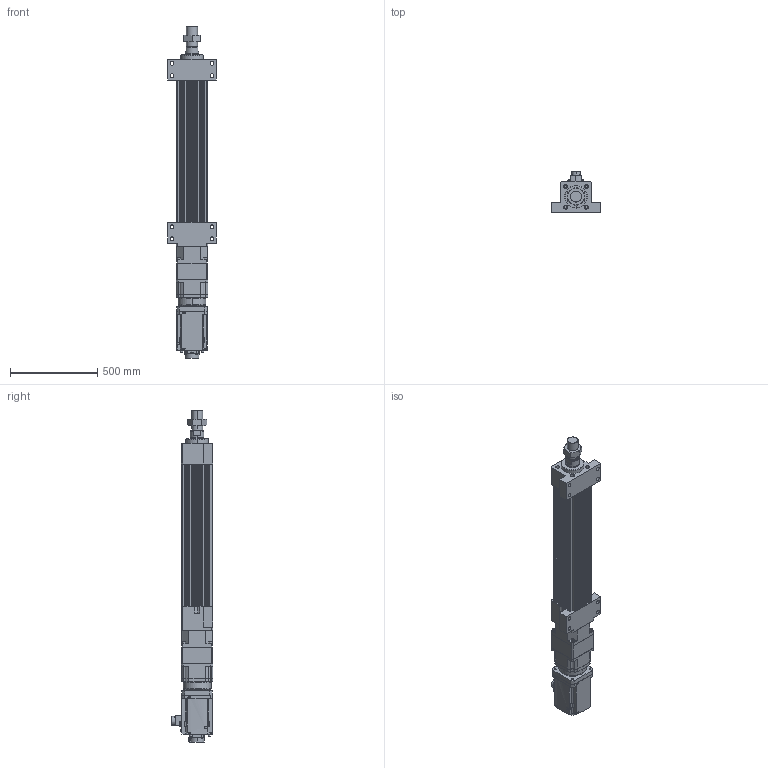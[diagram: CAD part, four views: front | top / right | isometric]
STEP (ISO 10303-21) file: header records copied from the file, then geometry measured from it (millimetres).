
FILE_DESCRIPTION (( 'STEP AP203' ), '1' );
FILE_NAME ('HES180HS-S500-W070G00-M-FFB.STEP', '2026-06-10T06:52:00', ( 'tms' ), ( '' ), 'SwSTEP 2.0', 'SolidWorks 2013', '' );
FILE_SCHEMA (( 'CONFIG_CONTROL_DESIGN' ));
Length unit declared in the file: millimetre
Products named in the file (9): HG-SR702B; M64X2.0P; HES180-M-ROD-500; HES180HS-S500-W070G00-M-FFB; HES180-S-G180; AB1803; AB1801; HES180-FFB-500; AB1802
Assembly tree (8 placements, depth 2):
  HES180HS-S500-W070G00-M-FFB
    HES180-FFB-500
    HES180-M-ROD-500
    M64X2.0P
    HES180-S-G180
    AB1801
    AB1802
    AB1803
    HG-SR702B
Bounding box: 280 x 239.1 x 1905.74 mm (x, y, z)
Volume: 30117061.6 mm3; surface area: 2723319.3 mm2
Topology: 5 solids, 20 shells, 1552 faces, 4023 edges, 2624 vertices
Faces by surface type: cylinder 704, plane 639, cone 142, bspline 63, torus 4
Entity records: 56368 total; most frequent: CARTESIAN_POINT 16636, DIRECTION 8361, ORIENTED_EDGE 7970, EDGE_CURVE 4009, AXIS2_PLACEMENT_3D 3129, VERTEX_POINT 2624, LINE 2103, VECTOR 2103
